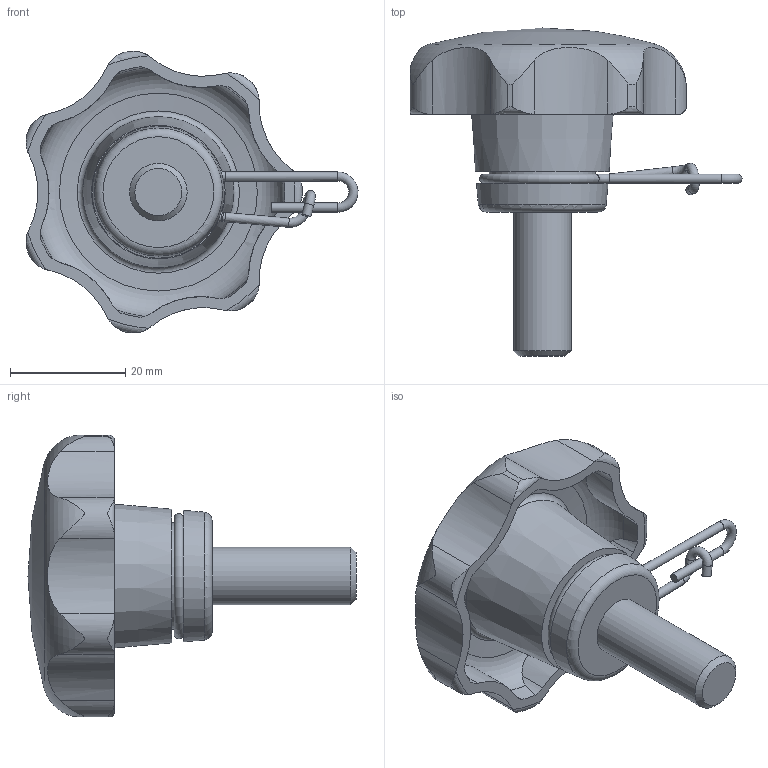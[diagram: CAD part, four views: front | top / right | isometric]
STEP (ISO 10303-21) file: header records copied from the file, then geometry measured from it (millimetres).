
FILE_DESCRIPTION( ( 'STEP AP203' ), '1' );
FILE_NAME( 'C:/Temp/Ganter_Step_05_03_2020/data/2_2/gn_6336_13/gn_6336_13_2/Star knob GN 6336.13-50-M10-25-A.stp', '2020-03-05T12:11:15', ( 'License CC BY-ND 4.0' ), ( 'CADENAS' ), ' ', 'PARTsolutions', ' ' );
FILE_SCHEMA( ( 'CONFIG_CONTROL_DESIGN' ) );
Length unit declared in the file: millimetre
Products named in the file (1): _Star knob GN 6336.13-50-M10-25-A
Bounding box: 57.69 x 57 x 49 mm (x, y, z)
Volume: 24539.7 mm3; surface area: 9121.1 mm2
Topology: 1 solids, 1 shells, 93 faces, 249 edges, 161 vertices
Faces by surface type: cylinder 53, torus 18, cone 11, plane 10, sphere 1
Full cylindrical faces by diameter (mm): 1.6 x6, 10 x1, 18.5 x1
Entity records: 3564 total; most frequent: CARTESIAN_POINT 1365, DIRECTION 444, ORIENTED_EDGE 438, EDGE_CURVE 219, AXIS2_PLACEMENT_3D 200, VERTEX_POINT 157, EDGE_LOOP 119, FACE_OUTER_BOUND 111
